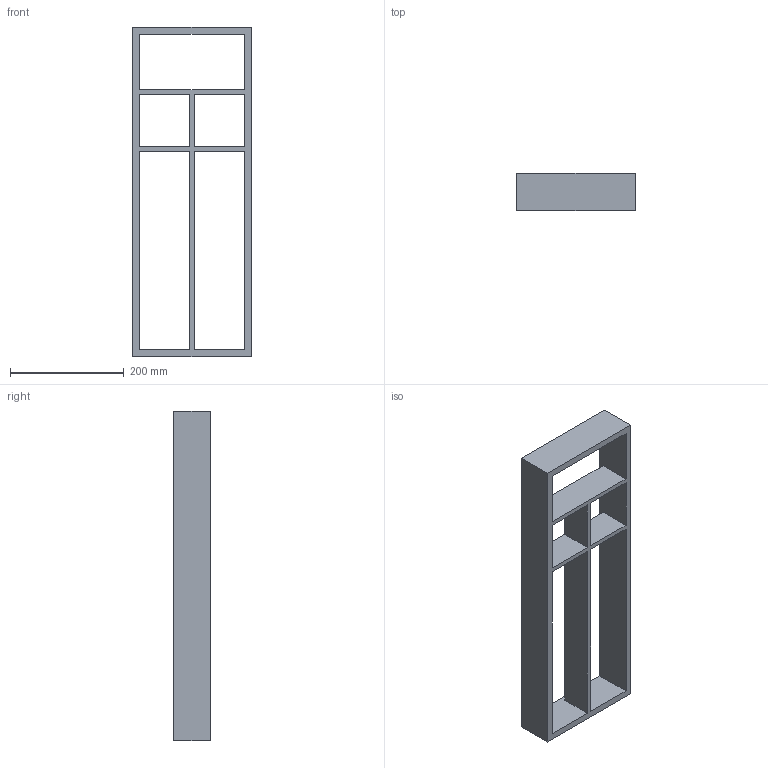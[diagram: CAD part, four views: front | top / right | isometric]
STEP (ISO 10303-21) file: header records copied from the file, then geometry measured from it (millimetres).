
FILE_DESCRIPTION (( 'STEP AP214' ), '1' );
FILE_NAME ('Vario Besteck NL600_B300_16 mm_Buche.step', '2010-11-04T08:33:24', ( 'grass' ), ( '' ), 'SwSTEP 2.0', 'SolidWorks 2010', '' );
FILE_SCHEMA (( 'AUTOMOTIVE_DESIGN' ));
Length unit declared in the file: millimetre
Products named in the file (1): Vario Besteck NL600_B300_16 mm_Buche
Bounding box: 208 x 65 x 579 mm (x, y, z)
Volume: 1559184 mm3; surface area: 336526 mm2
Topology: 1 solids, 1 shells, 22 faces, 72 edges, 48 vertices
Faces by surface type: plane 22
Entity records: 830 total; most frequent: ORIENTED_EDGE 144, CARTESIAN_POINT 143, DIRECTION 118, EDGE_CURVE 72, VECTOR 72, LINE 72, VERTEX_POINT 48, EDGE_LOOP 28
